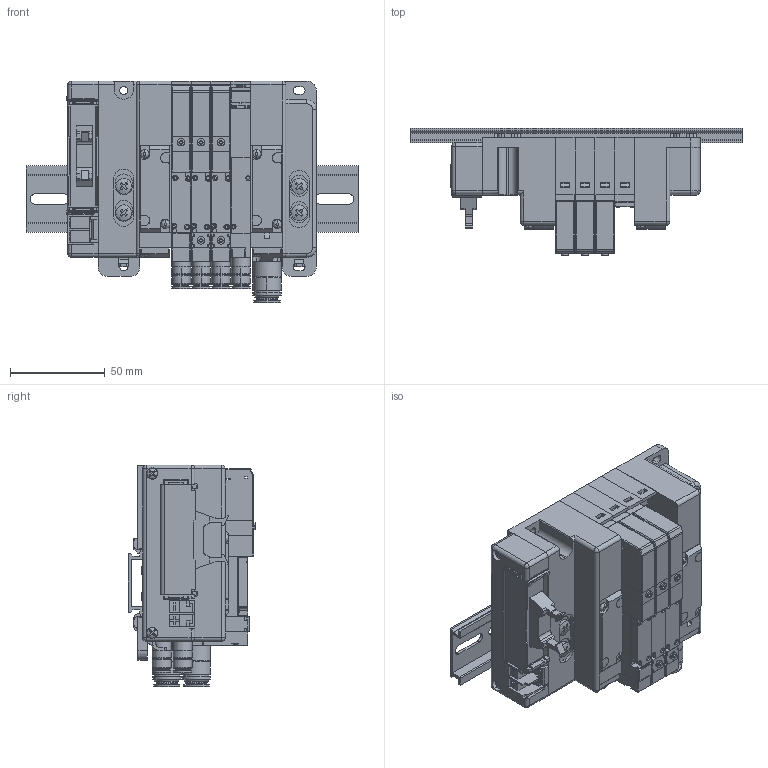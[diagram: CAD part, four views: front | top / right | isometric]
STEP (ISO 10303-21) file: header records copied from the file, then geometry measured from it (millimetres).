
FILE_DESCRIPTION( (''), '2;1');
FILE_NAME ('CVICAD02.9768.F10M4XPJ-JR-F10x-DN_10527.stp','2020-08-31T10:42:24',(''),(''),'spGate 12.6.6','','');
FILE_SCHEMA (('AUTOMOTIVE_DESIGN'));
Length unit declared in the file: millimetre
Products named in the file (19): Assembly; F10-PP; F10ZX_ValveBaseAssy; F10_Port-PJ; F10XBPP; F10_Adptor; F_3PortBody; F10_Cap; F_Connector-L; F10T_Body; F10_SwitchBlock; F10_A1; F10_VJ; F10ZX-LK-DN; F10ZX-RN-DN; DIN-RAIL175; F10_SwitchBlock1; F10_DIN_配線ブロック_電源あり; 配線ブロック_F10x
Assembly tree (39 placements, depth 2):
  Assembly
    F10-PP  x3
    F10ZX_ValveBaseAssy  x4
    F10_Port-PJ
    F10XBPP
    F10_Adptor  x3
    F_3PortBody  x3
    F10_Cap  x3
    F_Connector-L  x3
    F10T_Body  x3
    F10_SwitchBlock  x2
    F10_A1  x3
    F10_VJ  x4
    F10ZX-LK-DN
    F10ZX-RN-DN
    DIN-RAIL175
    F10_SwitchBlock1
    F10_DIN_配線ブロック_電源あり
    配線ブロック_F10x
Bounding box: 175 x 67 x 117 mm (x, y, z)
Volume: 388861.4 mm3; surface area: 166868.5 mm2
Topology: 38 solids, 39 shells, 3979 faces, 10790 edges, 7443 vertices
Faces by surface type: plane 2657, cylinder 971, bspline 313, sphere 38
Entity records: 114325 total; most frequent: CARTESIAN_POINT 14862, ORIENTED_EDGE 11585, DIRECTION 10491, COLOUR_RGB 7942, PRESENTATION_STYLE_ASSIGNMENT 7942, STYLED_ITEM 7942, EDGE_CURVE 5794, DRAUGHTING_PRE_DEFINED_CURVE_FONT 5794
